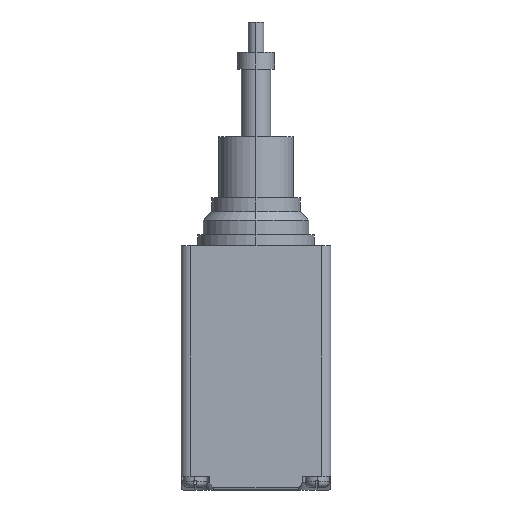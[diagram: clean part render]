
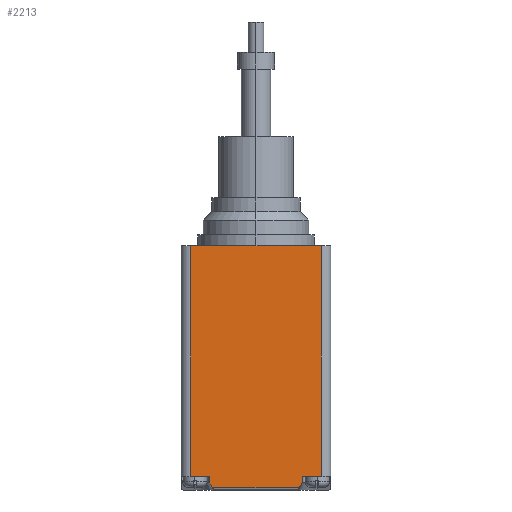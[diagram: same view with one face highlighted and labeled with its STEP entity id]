
A CAD part, left-side view. The second image highlights one B-rep face of the part: STEP entity #2213.
In plain terms, the highlighted planar face has unit normal (-1, 0, 0).
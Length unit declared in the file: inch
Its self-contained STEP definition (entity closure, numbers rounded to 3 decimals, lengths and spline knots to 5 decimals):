
#21 = CARTESIAN_POINT ( 'NONE',  ( -0.555, 0.343, 0.1 ) ) ;
#76 = EDGE_CURVE ( 'NONE', #5111, #3725, #6376, .T. ) ;
#179 = VERTEX_POINT ( 'NONE', #7283 ) ;
#329 = LINE ( 'NONE', #6430, #2682 ) ;
#493 = LINE ( 'NONE', #1497, #2987 ) ;
#637 = CARTESIAN_POINT ( 'NONE',  ( -0.555, 0.555, 0.015 ) ) ;
#707 = LINE ( 'NONE', #6479, #6046 ) ;
#781 = EDGE_CURVE ( 'NONE', #2268, #2545, #4696, .T. ) ;
#785 = CARTESIAN_POINT ( 'NONE',  ( -0.555, -0.485, 0.1 ) ) ;
#852 = CARTESIAN_POINT ( 'NONE',  ( -0.555, -0.32166, 0.015 ) ) ;
#857 = ORIENTED_EDGE ( 'NONE', *, *, #1715, .T. ) ;
#902 = DIRECTION ( 'NONE',  ( 1., 0., 0. ) ) ;
#1167 = CARTESIAN_POINT ( 'NONE',  ( -0.555, 0.343, 0.05196 ) ) ;
#1186 = CARTESIAN_POINT ( 'NONE',  ( -0.555, 0.485, 1.81102 ) ) ;
#1369 = CARTESIAN_POINT ( 'NONE',  ( -0.555, 0.555, 1.81102 ) ) ;
#1445 = LINE ( 'NONE', #1369, #5639 ) ;
#1491 = VECTOR ( 'NONE', #5750, 39.37008 ) ;
#1497 = CARTESIAN_POINT ( 'NONE',  ( -0.555, 0.343, 0.1 ) ) ;
#1677 = EDGE_CURVE ( 'NONE', #7021, #3234, #5287, .T. ) ;
#1691 = LINE ( 'NONE', #4627, #3661 ) ;
#1715 = EDGE_CURVE ( 'NONE', #7290, #6060, #707, .T. ) ;
#1777 = LINE ( 'NONE', #4054, #6093 ) ;
#1793 = DIRECTION ( 'NONE',  ( 0., 0., -1. ) ) ;
#1917 = CARTESIAN_POINT ( 'NONE',  ( -0.555, 0.32166, 0.015 ) ) ;
#1964 = VECTOR ( 'NONE', #4100, 39.37008 ) ;
#2082 = ORIENTED_EDGE ( 'NONE', *, *, #4132, .T. ) ;
#2213 = ADVANCED_FACE ( 'NONE', ( #4198 ), #3704, .F. ) ;
#2246 = CARTESIAN_POINT ( 'NONE',  ( -0.555, -0.343, 0.1 ) ) ;
#2268 = VERTEX_POINT ( 'NONE', #852 ) ;
#2293 = CARTESIAN_POINT ( 'NONE',  ( -0.555, 0.485, 0.1 ) ) ;
#2498 = ORIENTED_EDGE ( 'NONE', *, *, #6122, .T. ) ;
#2545 = VERTEX_POINT ( 'NONE', #4903 ) ;
#2682 = VECTOR ( 'NONE', #6462, 39.37008 ) ;
#2896 = EDGE_CURVE ( 'NONE', #3234, #2545, #1691, .T. ) ;
#2987 = VECTOR ( 'NONE', #4445, 39.37008 ) ;
#3075 = CARTESIAN_POINT ( 'NONE',  ( -0.555, 0.555, 1.81102 ) ) ;
#3183 = DIRECTION ( 'NONE',  ( 0., 1., 0. ) ) ;
#3216 = EDGE_CURVE ( 'NONE', #4191, #2268, #4612, .T. ) ;
#3234 = VERTEX_POINT ( 'NONE', #2246 ) ;
#3581 = ORIENTED_EDGE ( 'NONE', *, *, #3216, .T. ) ;
#3661 = VECTOR ( 'NONE', #1793, 39.37008 ) ;
#3704 = PLANE ( 'NONE',  #3784 ) ;
#3725 = VERTEX_POINT ( 'NONE', #2293 ) ;
#3784 = AXIS2_PLACEMENT_3D ( 'NONE', #3075, #902, #3183 ) ;
#4054 = CARTESIAN_POINT ( 'NONE',  ( -0.555, -0.485, 1.81102 ) ) ;
#4100 = DIRECTION ( 'NONE',  ( 0., 0., -1. ) ) ;
#4132 = EDGE_CURVE ( 'NONE', #7021, #179, #1777, .T. ) ;
#4191 = VERTEX_POINT ( 'NONE', #1917 ) ;
#4198 = FACE_OUTER_BOUND ( 'NONE', #4989, .T. ) ;
#4236 = CARTESIAN_POINT ( 'NONE',  ( -0.555, -0.555, 0.1 ) ) ;
#4285 = DIRECTION ( 'NONE',  ( 0., -1., 0. ) ) ;
#4445 = DIRECTION ( 'NONE',  ( 0., 1., 0. ) ) ;
#4580 = DIRECTION ( 'NONE',  ( 0., -1., 0. ) ) ;
#4612 = LINE ( 'NONE', #637, #4984 ) ;
#4627 = CARTESIAN_POINT ( 'NONE',  ( -0.555, -0.343, 0.1 ) ) ;
#4651 = ORIENTED_EDGE ( 'NONE', *, *, #781, .T. ) ;
#4696 = LINE ( 'NONE', #5785, #1491 ) ;
#4903 = CARTESIAN_POINT ( 'NONE',  ( -0.555, -0.343, 0.05196 ) ) ;
#4918 = ORIENTED_EDGE ( 'NONE', *, *, #6767, .F. ) ;
#4984 = VECTOR ( 'NONE', #4580, 39.37008 ) ;
#4989 = EDGE_LOOP ( 'NONE', ( #3581, #4651, #6975, #7355, #2082, #6729, #6266, #4918, #857, #2498 ) ) ;
#5014 = CARTESIAN_POINT ( 'NONE',  ( -0.555, 0.485, 1.81102 ) ) ;
#5111 = VERTEX_POINT ( 'NONE', #5014 ) ;
#5174 = DIRECTION ( 'NONE',  ( 0., 0., 1. ) ) ;
#5287 = LINE ( 'NONE', #4236, #5324 ) ;
#5317 = DIRECTION ( 'NONE',  ( 0., 0., -1. ) ) ;
#5324 = VECTOR ( 'NONE', #6518, 39.37008 ) ;
#5338 = EDGE_CURVE ( 'NONE', #5111, #179, #1445, .T. ) ;
#5639 = VECTOR ( 'NONE', #4285, 39.37008 ) ;
#5750 = DIRECTION ( 'NONE',  ( 0., -0.5, 0.866 ) ) ;
#5785 = CARTESIAN_POINT ( 'NONE',  ( -0.555, -0.343, 0.05196 ) ) ;
#6046 = VECTOR ( 'NONE', #5317, 39.37008 ) ;
#6060 = VERTEX_POINT ( 'NONE', #1167 ) ;
#6093 = VECTOR ( 'NONE', #5174, 39.37008 ) ;
#6122 = EDGE_CURVE ( 'NONE', #6060, #4191, #329, .T. ) ;
#6266 = ORIENTED_EDGE ( 'NONE', *, *, #76, .T. ) ;
#6376 = LINE ( 'NONE', #1186, #1964 ) ;
#6430 = CARTESIAN_POINT ( 'NONE',  ( -0.555, 0.343, 0.05196 ) ) ;
#6462 = DIRECTION ( 'NONE',  ( 0., -0.5, -0.866 ) ) ;
#6479 = CARTESIAN_POINT ( 'NONE',  ( -0.555, 0.343, 0.1 ) ) ;
#6518 = DIRECTION ( 'NONE',  ( 0., 1., 0. ) ) ;
#6729 = ORIENTED_EDGE ( 'NONE', *, *, #5338, .F. ) ;
#6767 = EDGE_CURVE ( 'NONE', #7290, #3725, #493, .T. ) ;
#6975 = ORIENTED_EDGE ( 'NONE', *, *, #2896, .F. ) ;
#7021 = VERTEX_POINT ( 'NONE', #785 ) ;
#7283 = CARTESIAN_POINT ( 'NONE',  ( -0.555, -0.485, 1.81102 ) ) ;
#7290 = VERTEX_POINT ( 'NONE', #21 ) ;
#7355 = ORIENTED_EDGE ( 'NONE', *, *, #1677, .F. ) ;
